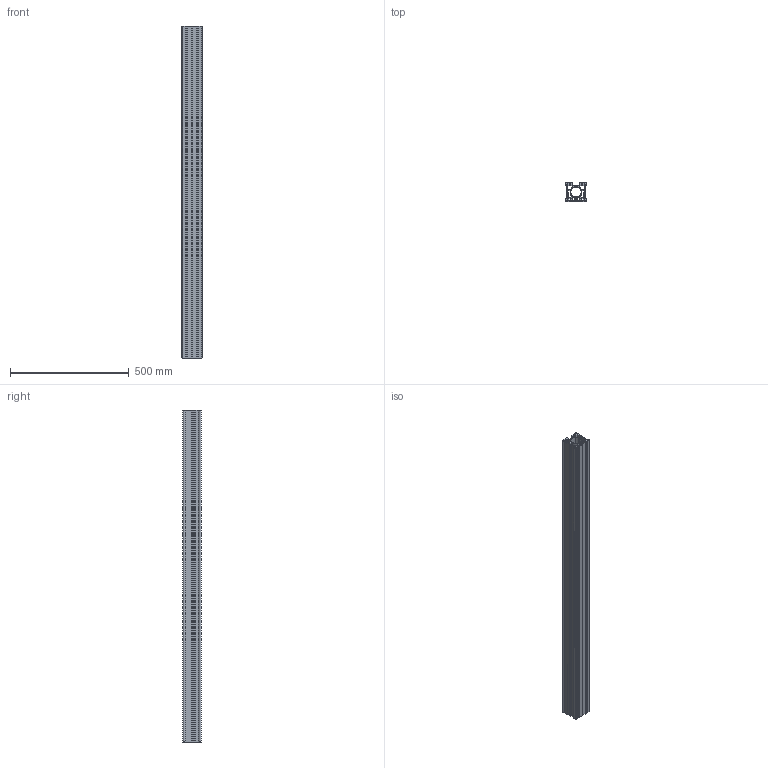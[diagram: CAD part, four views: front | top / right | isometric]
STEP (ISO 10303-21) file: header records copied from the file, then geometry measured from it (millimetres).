
FILE_DESCRIPTION (( 'STEP AP203' ), '1' );
FILE_NAME ('_-_MLF 4 1398 mm lang.step', '2005-09-01T12:46:12', ( ' ' ), ( ' ' ), 'SwSTEP 2.0', 'SolidWorks 2005187', '' );
FILE_SCHEMA (( 'CONFIG_CONTROL_DESIGN' ));
Length unit declared in the file: millimetre
Products named in the file (1): _-_MLF 4  1398 mm lang
Bounding box: 87.6 x 80 x 1398 mm (x, y, z)
Volume: 3220880.9 mm3; surface area: 1729144.3 mm2
Topology: 1 solids, 1 shells, 248 faces, 762 edges, 500 vertices
Faces by surface type: plane 174, cylinder 74
Entity records: 8575 total; most frequent: ORIENTED_EDGE 1524, CARTESIAN_POINT 1511, DIRECTION 1408, EDGE_CURVE 762, VECTOR 614, LINE 614, VERTEX_POINT 500, AXIS2_PLACEMENT_3D 397
